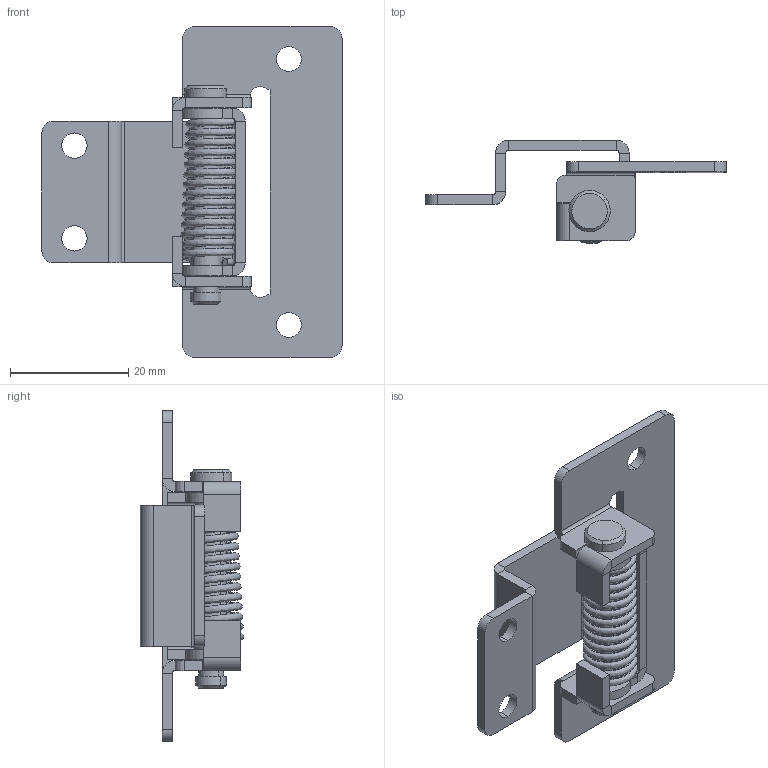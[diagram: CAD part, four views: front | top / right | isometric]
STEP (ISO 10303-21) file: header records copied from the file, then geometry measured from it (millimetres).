
FILE_DESCRIPTION (( 'STEP AP203' ), '1' );
FILE_NAME ('XG02-011.STEP', '2023-12-06T09:25:44', ( '' ), ( '' ), 'SwSTEP 2.0', 'SolidWorks 2020', '' );
FILE_SCHEMA (( 'CONFIG_CONTROL_DESIGN' ));
Length unit declared in the file: millimetre
Products named in the file (5): HL128-A; XZ2; TANHUAN; HL128-B; XG02-011
Assembly tree (4 placements, depth 2):
  XG02-011
    HL128-A
    HL128-B
    XZ2
    TANHUAN
Bounding box: 50.8 x 17.5 x 56 mm (x, y, z)
Volume: 5995.1 mm3; surface area: 8674.1 mm2
Topology: 4 solids, 4 shells, 157 faces, 370 edges, 224 vertices
Faces by surface type: plane 91, cylinder 60, cone 4, bspline 2
Entity records: 9499 total; most frequent: CARTESIAN_POINT 5276, DIRECTION 816, ORIENTED_EDGE 740, EDGE_CURVE 370, AXIS2_PLACEMENT_3D 290, LINE 236, VECTOR 236, VERTEX_POINT 224
